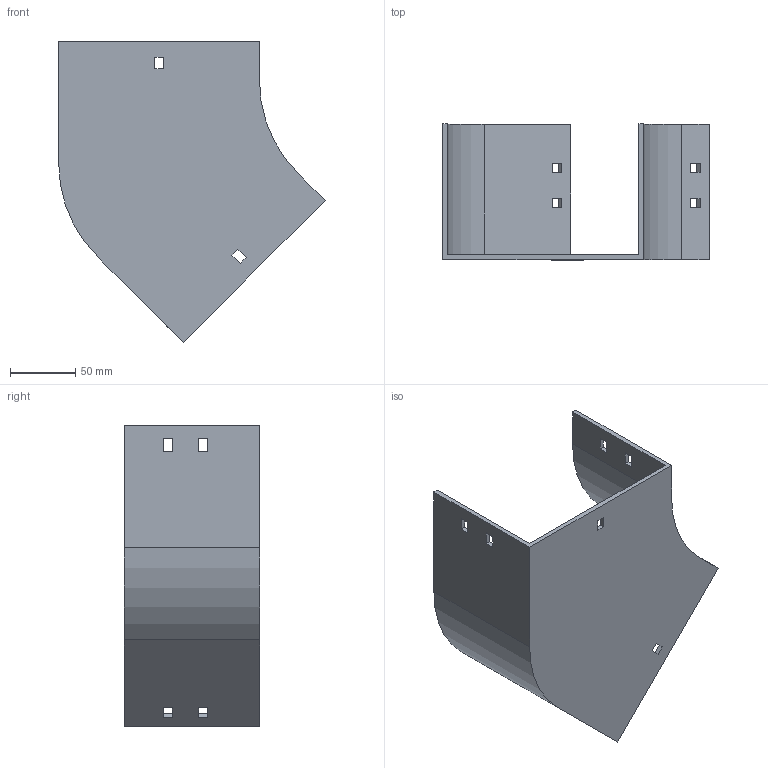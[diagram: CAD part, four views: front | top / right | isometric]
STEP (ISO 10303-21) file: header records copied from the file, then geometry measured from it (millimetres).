
FILE_DESCRIPTION (( 'STEP AP214' ), '1' );
FILE_NAME ('11F1D150.step', '2025-02-21T12:54:58', ( '' ), ( '' ), 'SwSTEP 2.0', 'SolidWorks 2023', '' );
FILE_SCHEMA (( 'AUTOMOTIVE_DESIGN' ));
Length unit declared in the file: millimetre
Products named in the file (1): 11F1D150
Bounding box: 204.5 x 104 x 230.82 mm (x, y, z)
Volume: 251343.2 mm3; surface area: 148695 mm2
Topology: 1 solids, 1 shells, 58 faces, 168 edges, 112 vertices
Faces by surface type: plane 54, cylinder 4
Entity records: 1943 total; most frequent: CARTESIAN_POINT 339, ORIENTED_EDGE 336, DIRECTION 294, EDGE_CURVE 168, LINE 160, VECTOR 160, VERTEX_POINT 112, EDGE_LOOP 78
